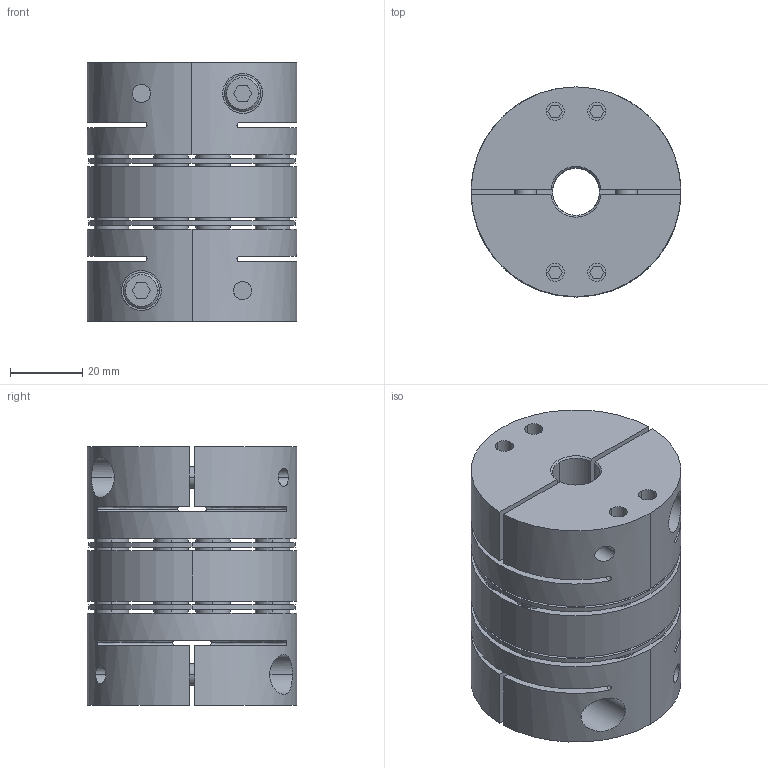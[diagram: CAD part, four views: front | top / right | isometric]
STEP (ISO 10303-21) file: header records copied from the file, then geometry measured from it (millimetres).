
FILE_DESCRIPTION((''),'2;1');
FILE_NAME('TAD-58C-13×15.stp','2022-11-13T21:50:02',(''),(''),'AutoCAD STEP 2000i','AutoCAD 2000i',', , ');
FILE_SCHEMA(('CONFIG_CONTROL_DESIGN'));
Length unit declared in the file: millimetre
Products named in the file (6): TAD-58C-12×12; 忣兜1; TA58C-12-2; CAP-M6×20; TA58C-12; TAS-58C-ITA
Assembly tree (6 placements, depth 3):
  TAD-58C-12×12
    忣兜1
    TA58C-12-2
      CAP-M6×20
    TA58C-12
      CAP-M6×20
    TAS-58C-ITA
Bounding box: 58 x 58 x 71.5 mm (x, y, z)
Volume: 140641.7 mm3; surface area: 56468.2 mm2
Topology: 1 solids, 5 shells, 568 faces, 1364 edges, 920 vertices
Faces by surface type: plane 252, cylinder 228, cone 72, bspline 16
Entity records: 18573 total; most frequent: CARTESIAN_POINT 4791, DIRECTION 2994, ORIENTED_EDGE 2640, EDGE_CURVE 1320, AXIS2_PLACEMENT_3D 1139, VERTEX_POINT 860, EDGE_LOOP 724, VECTOR 716
